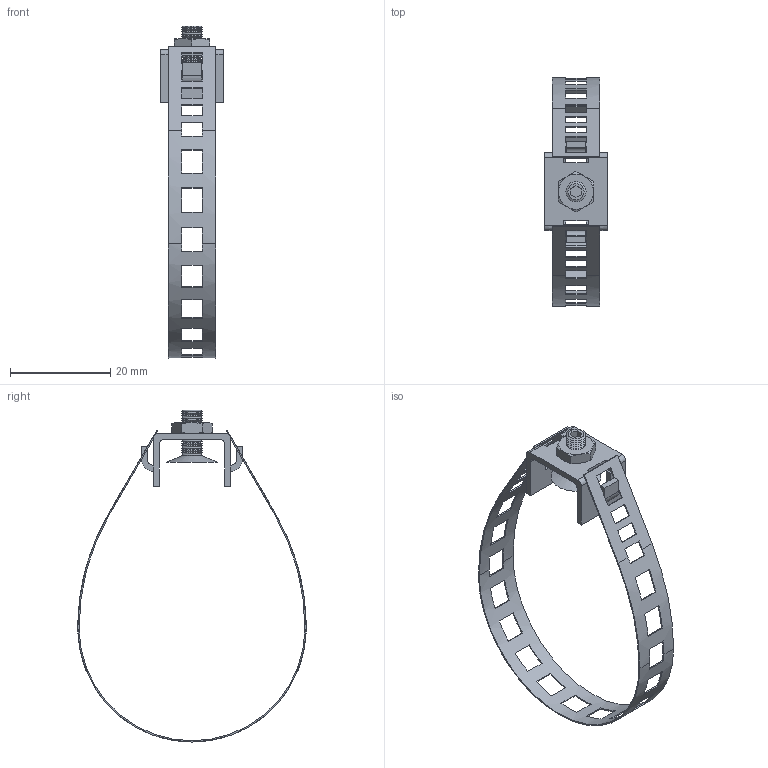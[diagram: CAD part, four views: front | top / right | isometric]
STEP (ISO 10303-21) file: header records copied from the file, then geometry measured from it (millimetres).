
FILE_DESCRIPTION(/* description */ ('Unknown'),/* implementation_level */ '2;1');
FILE_NAME(/* name */ 'BV125',/* time_stamp */ '2021-11-03T16:24:47+08:00',/* author */ ('Unknown'),/* organization */ ('Unknown'),/* preprocessor_version */ 'ST-DEVELOPER v16.7',/* originating_system */ 'DEX',/* authorisation */ $);
FILE_SCHEMA (('AUTOMOTIVE_DESIGN {1 0 10303 214 3 1 1}'));
Length unit declared in the file: millimetre
Products named in the file (1): BV125
Bounding box: 12.5 x 45.5 x 66.15 mm (x, y, z)
Volume: 939.8 mm3; surface area: 3742.8 mm2
Topology: 1 solids, 1 shells, 230 faces, 704 edges, 458 vertices
Faces by surface type: plane 166, cone 47, cylinder 17
Full cylindrical faces by diameter (mm): 4.2 x1
Entity records: 7668 total; most frequent: CARTESIAN_POINT 1417, ORIENTED_EDGE 1300, DIRECTION 1260, EDGE_CURVE 650, LINE 454, VECTOR 454, VERTEX_POINT 440, AXIS2_PLACEMENT_3D 403
